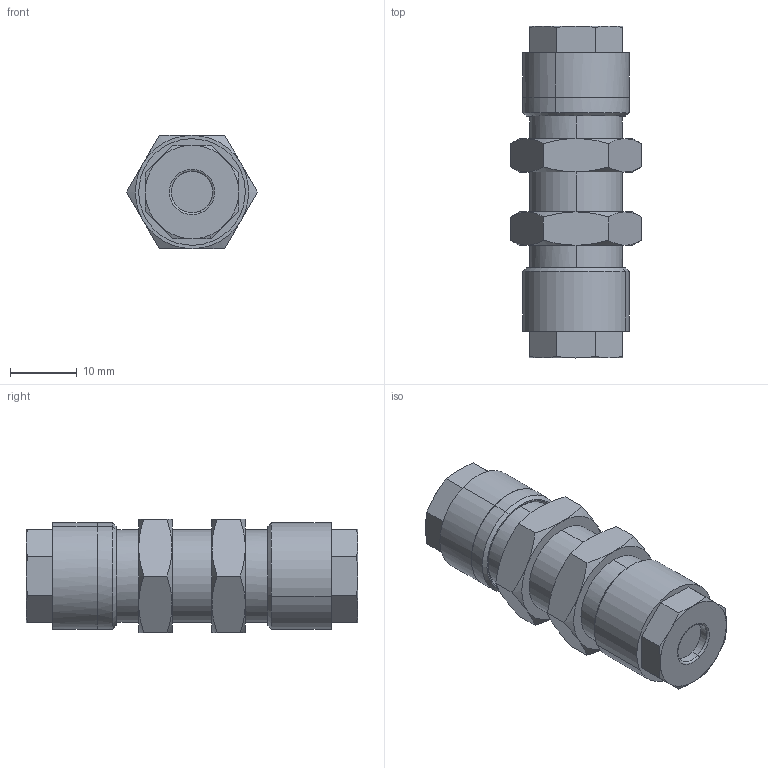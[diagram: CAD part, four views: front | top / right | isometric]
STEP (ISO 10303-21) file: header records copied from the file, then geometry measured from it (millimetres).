
FILE_DESCRIPTION (( 'STEP AP214' ), '1' );
FILE_NAME ('0105000007.step', '2012-09-28T13:22:38', ( '' ), ( '' ), 'SwSTEP 2.0', 'SolidWorks 2012', '' );
FILE_SCHEMA (( 'AUTOMOTIVE_DESIGN' ));
Length unit declared in the file: millimetre
Products named in the file (1): 0105000007
Bounding box: 19.63 x 49.8 x 17 mm (x, y, z)
Volume: 9405.6 mm3; surface area: 3375 mm2
Topology: 1 solids, 1 shells, 123 faces, 281 edges, 170 vertices
Faces by surface type: cone 63, plane 40, cylinder 16, torus 4
Entity records: 5032 total; most frequent: CARTESIAN_POINT 997, ORIENTED_EDGE 562, DIRECTION 531, EDGE_CURVE 281, AXIS2_PLACEMENT_3D 224, VERTEX_POINT 170, EDGE_LOOP 133, UNCERTAINTY_MEASURE_WITH_UNIT 126
